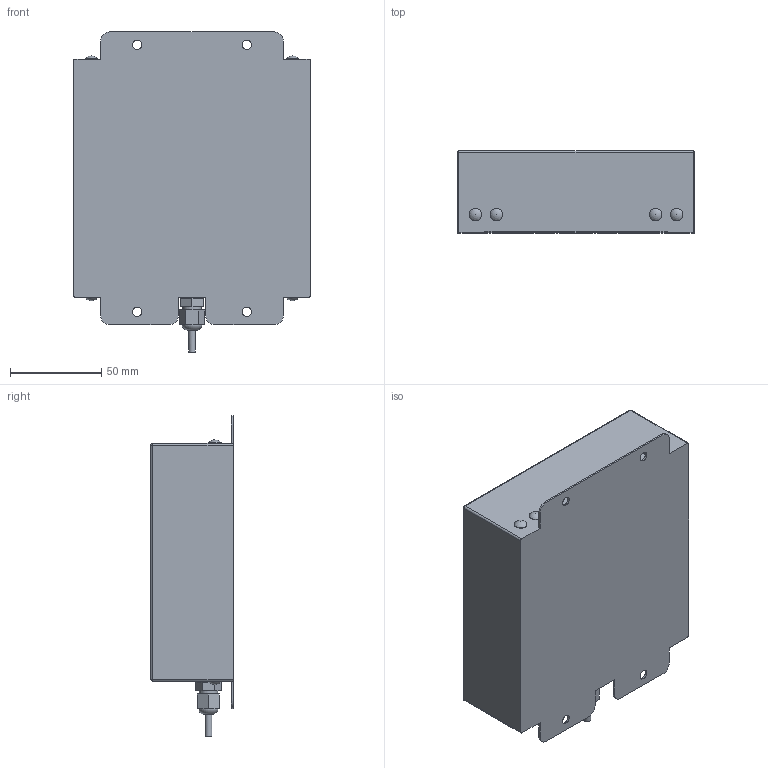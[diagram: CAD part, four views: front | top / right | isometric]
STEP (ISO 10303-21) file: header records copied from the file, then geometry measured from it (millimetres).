
FILE_DESCRIPTION (( 'STEP AP203' ), '1' );
FILE_NAME ('HDSBPA-100x100.STEP', '2023-04-18T02:45:50', ( '' ), ( '' ), 'SwSTEP 2.0', 'SolidWorks 2022', '' );
FILE_SCHEMA (( 'CONFIG_CONTROL_DESIGN' ));
Length unit declared in the file: millimetre
Products named in the file (1): HDSBPA-100x100
Bounding box: 130 x 45 x 175 mm (x, y, z)
Volume: 755596.7 mm3; surface area: 63812.6 mm2
Topology: 1 solids, 1 shells, 98 faces, 255 edges, 161 vertices
Faces by surface type: plane 52, cylinder 31, sphere 14, torus 1
Full cylindrical faces by diameter (mm): 3.7 x1, 5.2 x4, 6.9 x10, 10 x1, 12.5 x1
Entity records: 2677 total; most frequent: DIRECTION 470, CARTESIAN_POINT 431, ORIENTED_EDGE 394, EDGE_CURVE 197, AXIS2_PLACEMENT_3D 174, EDGE_LOOP 140, VERTEX_POINT 135, VECTOR 122
